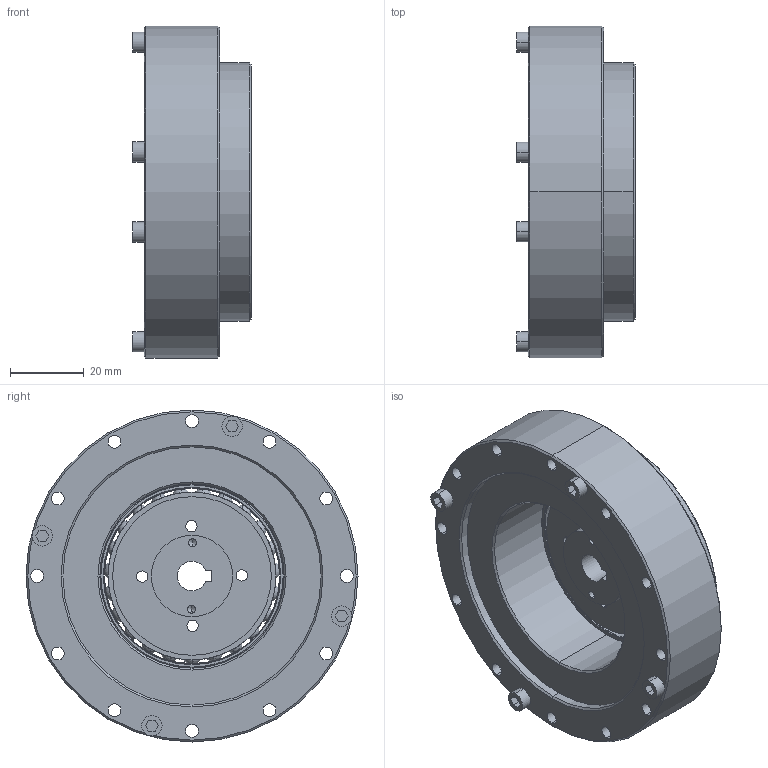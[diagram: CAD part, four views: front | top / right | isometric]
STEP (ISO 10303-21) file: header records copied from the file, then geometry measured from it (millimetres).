
FILE_DESCRIPTION(/* description */ (''),/* implementation_level */ '2;1');
FILE_NAME(/* name */ 'LHT-20-U-1.stp',/* time_stamp */ '2021-12-15T14:16:59+08:00',/* author */ (''),/* organization */ (''),/* preprocessor_version */ 'ST-DEVELOPER v16.7',/* originating_system */ 'SIEMENS PLM Software NX 12.0',/* authorisation */ '');
FILE_SCHEMA (('AUTOMOTIVE_DESIGN { 1 0 10303 214 3 1 1 1 }'));
Length unit declared in the file: millimetre
Products named in the file (63): MANIFOLD_SOLID_BREP_6192; MANIFOLD_SOLID_BREP_6191; MANIFOLD_SOLID_BREP_6190; MANIFOLD_SOLID_BREP_6189; MANIFOLD_SOLID_BREP_6188; MANIFOLD_SOLID_BREP_6187; MANIFOLD_SOLID_BREP_6186; MANIFOLD_SOLID_BREP_6185; MANIFOLD_SOLID_BREP_6183; MANIFOLD_SOLID_BREP_6182; MANIFOLD_SOLID_BREP_6181; MANIFOLD_SOLID_BREP_6180; MANIFOLD_SOLID_BREP_6179; MANIFOLD_SOLID_BREP_6178; MANIFOLD_SOLID_BREP_6177; MANIFOLD_SOLID_BREP_6176; MANIFOLD_SOLID_BREP_6175; MANIFOLD_SOLID_BREP_6174; MANIFOLD_SOLID_BREP_6172; MANIFOLD_SOLID_BREP_6171; MANIFOLD_SOLID_BREP_6170; MANIFOLD_SOLID_BREP_6169; MANIFOLD_SOLID_BREP_6168; MANIFOLD_SOLID_BREP_6167; MANIFOLD_SOLID_BREP_6166; MANIFOLD_SOLID_BREP_6165; MANIFOLD_SOLID_BREP_6164; MANIFOLD_SOLID_BREP_6163; MANIFOLD_SOLID_BREP_6162; MANIFOLD_SOLID_BREP_6161; MANIFOLD_SOLID_BREP_6160; MANIFOLD_SOLID_BREP_6159; MANIFOLD_SOLID_BREP_6158; MANIFOLD_SOLID_BREP_6157; MANIFOLD_SOLID_BREP_6156; MANIFOLD_SOLID_BREP_6155; MANIFOLD_SOLID_BREP_6154; MANIFOLD_SOLID_BREP_6153; MANIFOLD_SOLID_BREP_6152; MANIFOLD_SOLID_BREP_6151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
Assembly tree (62 placements, depth 3):
  LHT-20-U-1_stp
    ADMI7ED1CHG9_ASM
      MANIFOLD_SOLID_BREP_6130
      MANIFOLD_SOLID_BREP_6131
      MANIFOLD_SOLID_BREP_6132
      MANIFOLD_SOLID_BREP_6133
      MANIFOLD_SOLID_BREP_6134
      MANIFOLD_SOLID_BREP_6135
      MANIFOLD_SOLID_BREP_6136
      MANIFOLD_SOLID_BREP_6137
      MANIFOLD_SOLID_BREP_6138
      MANIFOLD_SOLID_BREP_6139
      MANIFOLD_SOLID_BREP_6140
      MANIFOLD_SOLID_BREP_6141
      MANIFOLD_SOLID_BREP_6142
      MANIFOLD_SOLID_BREP_6143
      MANIFOLD_SOLID_BREP_6144
      MANIFOLD_SOLID_BREP_6145
      MANIFOLD_SOLID_BREP_6146
      MANIFOLD_SOLID_BREP_6147
      MANIFOLD_SOLID_BREP_6148
      MANIFOLD_SOLID_BREP_6149
      MANIFOLD_SOLID_BREP_6150
      MANIFOLD_SOLID_BREP_6151
      MANIFOLD_SOLID_BREP_6152
      MANIFOLD_SOLID_BREP_6153
      MANIFOLD_SOLID_BREP_6154
      MANIFOLD_SOLID_BREP_6155
      MANIFOLD_SOLID_BREP_6156
      MANIFOLD_SOLID_BREP_6157
      MANIFOLD_SOLID_BREP_6158
      MANIFOLD_SOLID_BREP_6159
      MANIFOLD_SOLID_BREP_6160
      MANIFOLD_SOLID_BREP_6161
      MANIFOLD_SOLID_BREP_6162
      MANIFOLD_SOLID_BREP_6163
      MANIFOLD_SOLID_BREP_6164
      MANIFOLD_SOLID_BREP_6165
      MANIFOLD_SOLID_BREP_6166
      MANIFOLD_SOLID_BREP_6167
      MANIFOLD_SOLID_BREP_6168
      MANIFOLD_SOLID_BREP_6169
      MANIFOLD_SOLID_BREP_6170
      MANIFOLD_SOLID_BREP_6171
      MANIFOLD_SOLID_BREP_6172
      MANIFOLD_SOLID_BREP_6174
      MANIFOLD_SOLID_BREP_6175
      MANIFOLD_SOLID_BREP_6176
      MANIFOLD_SOLID_BREP_6177
      MANIFOLD_SOLID_BREP_6178
      MANIFOLD_SOLID_BREP_6179
      MANIFOLD_SOLID_BREP_6180
      MANIFOLD_SOLID_BREP_6181
      MANIFOLD_SOLID_BREP_6182
      MANIFOLD_SOLID_BREP_6183
      MANIFOLD_SOLID_BREP_6185
      MANIFOLD_SOLID_BREP_6186
      MANIFOLD_SOLID_BREP_6187
      MANIFOLD_SOLID_BREP_6188
      MANIFOLD_SOLID_BREP_6189
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Bounding box: 32 x 90 x 90 mm (x, y, z)
Volume: 114014 mm3; surface area: 44777.1 mm2
Topology: 61 solids, 61 shells, 710 faces, 1935 edges, 1157 vertices
Faces by surface type: cylinder 281, plane 199, cone 106, sphere 92, torus 32
Full cylindrical faces by diameter (mm): 22 x1, 43 x1
Entity records: 23010 total; most frequent: DIRECTION 4296, CARTESIAN_POINT 3635, ORIENTED_EDGE 3402, AXIS2_PLACEMENT_3D 1822, EDGE_CURVE 1701, VERTEX_POINT 1161, CIRCLE 1049, EDGE_LOOP 802
